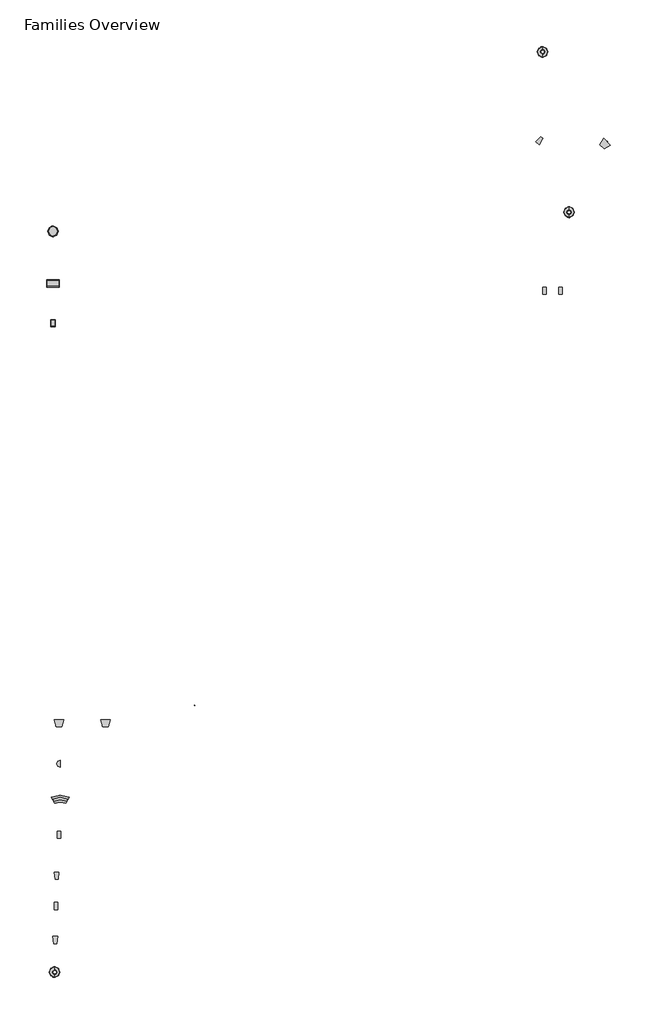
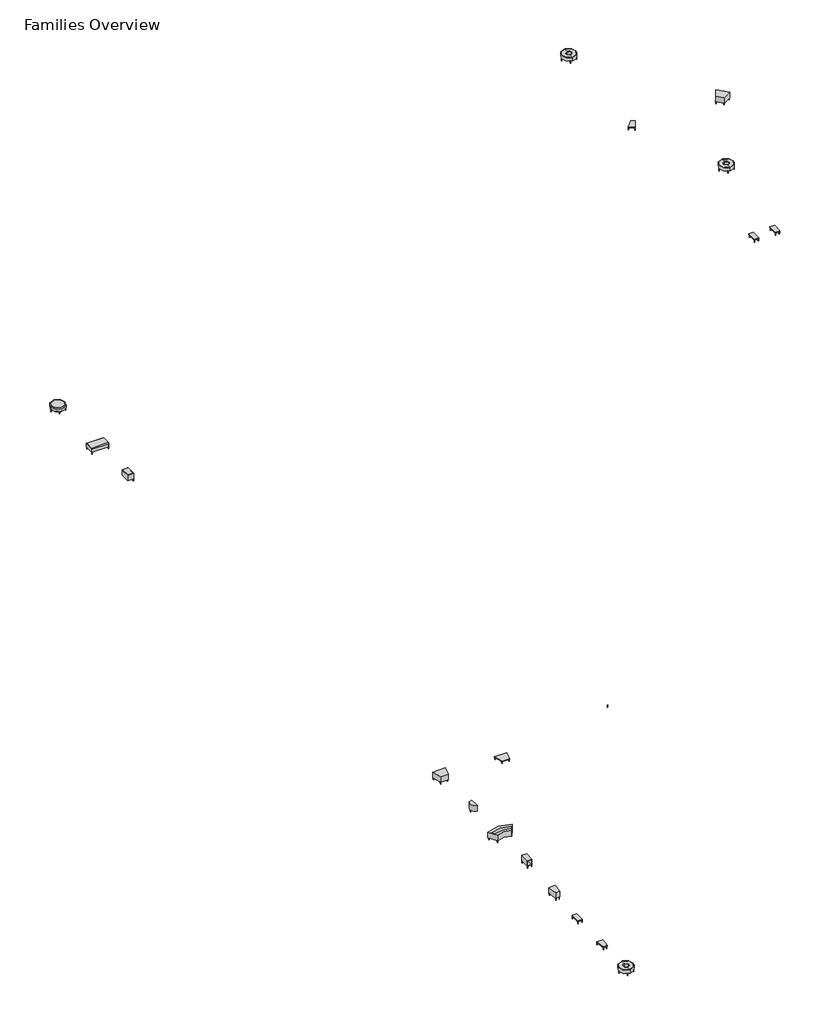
# One storey, incomplete: 19 furniture elements.
"""IFC4 building model written with IfcOpenShell, lengths in millimetres."""

from ifc_helpers import new_model, si_unit, origin, place, context, project, spatial, transform, mapped, element, save
from components import one_leg_table_213f602b, steelcase_coalesse_circa_seating_round_ottoman_ottoman_008e5c35, steelcase_coalesse_circa_seating_straight_bench_58bbb06b, steelcase_coalesse_circa_seating_straight_armrest_end_of_run_a4ea1394, steelcase_coalesse_circa_table_30deg_high_dc8d9c8f, steelcase_coalesse_circa_table_30deg_low_8c004b64, steelcase_coalesse_circa_table_30deg_with_one_leg_30deg_with_30ad734f, steelcase_coalesse_circa_table_60deg_planter_60deg_table_712379bf, steelcase_coalesse_circa_table_high_straight_high_straight_e4ba7b22, steelcase_coalesse_circa_table_high_wedge_high_wedge_dc0570ff, steelcase_coalesse_circa_table_low_straight_low_straight_40700df2, steelcase_coalesse_circa_table_low_straight_low_straight_29d6d99f, steelcase_coalesse_circa_table_low_wedge_low_wedge_ee67b399, steelcase_coalesse_circa_table_round_freestanding_a4bb9338

model = new_model("IFC4")

# Units and contexts
model_context = context("Model", 3, world=origin())
ifc_project = project(units=[si_unit("LENGTHUNIT", "METRE", prefix="MILLI")], contexts=[model_context])

# Site, building, storey
site = spatial("IfcSite", under=ifc_project)
building = spatial("IfcBuilding", under=site)
storey = spatial("IfcBuildingStorey", under=building, Name="Families Overview", Elevation=0.0)

# Furniture
placement = place(None, origin())
one_leg_table_shape = one_leg_table_213f602b(model_context)
element("IfcFurniture", 1, ObjectType="One Leg Table : Cylindrical Leg", at=placement, inside=storey, context=model_context, shape_type="MappedRepresentation", body=[
    mapped(one_leg_table_shape, transform((151189.0107903, -104084.0942945, 0.0), x_axis=(1.0, 0.0, 0.0), y_axis=(0.0, 1.0, 0.0), z_axis=(0.0, 0.0, 1.0))),
])
steelcase_coalesse_circa_seating_round_ottoman_ottoman_shape = steelcase_coalesse_circa_seating_round_ottoman_ottoman_008e5c35(model_context)
element("IfcFurniture", 2, ObjectType="Steelcase Coalesse - Circa - Seating - Round Ottoman : Ottoman", at=placement, inside=storey, context=model_context, shape_type="MappedRepresentation", body=[
    mapped(steelcase_coalesse_circa_seating_round_ottoman_ottoman_shape, transform((137676.5537123, -57715.6851805, 0.0), x_axis=(1.0, 0.0, 0.0), y_axis=(0.0, 1.0, 0.0), z_axis=(0.0, 0.0, 1.0))),
])
steelcase_coalesse_circa_seating_straight_bench_shape = steelcase_coalesse_circa_seating_straight_bench_58bbb06b(model_context)
element("IfcFurniture", 3, ObjectType="Steelcase Coalesse - Circa - Seating - Straight : Bench", at=placement, inside=storey, context=model_context, shape_type="MappedRepresentation", body=[
    mapped(steelcase_coalesse_circa_seating_straight_bench_shape, transform((137041.5537123, -63202.0851805, 0.0), x_axis=(1.0, 0.0, 0.0), y_axis=(0.0, 1.0, 0.0), z_axis=(0.0, 0.0, 1.0))),
])
steelcase_coalesse_circa_seating_straight_armrest_end_of_run_shape = steelcase_coalesse_circa_seating_straight_armrest_end_of_run_a4ea1394(model_context)
element("IfcFurniture", 4, ObjectType="Steelcase Coalesse - Circa - Seating - Straight Armrest : End of Run", at=placement, inside=storey, context=model_context, shape_type="MappedRepresentation", body=[
    mapped(steelcase_coalesse_circa_seating_straight_armrest_end_of_run_shape, transform((137440.0162123, -66402.4851805, 0.0), x_axis=(1.0, 0.0, 0.0), y_axis=(0.0, 1.0, 0.0), z_axis=(0.0, 0.0, 1.0))),
])
steelcase_coalesse_circa_table_30deg_high_shape = steelcase_coalesse_circa_table_30deg_high_dc8d9c8f(model_context)
element("IfcFurniture", 5, ObjectType="Steelcase Coalesse - Circa - Table - 30deg : High", at=placement, inside=storey, context=model_context, shape_type="MappedRepresentation", body=[
    mapped(steelcase_coalesse_circa_table_30deg_high_shape, transform((137793.2278736, -105862.0942945, 0.0), x_axis=(1.0, 0.0, 0.0), y_axis=(0.0, 1.0, 0.0), z_axis=(0.0, 0.0, 1.0))),
])
element("IfcFurniture", 6, ObjectType="Steelcase Coalesse - Circa - Table - 30deg : High", at=placement, inside=storey, context=model_context, shape_type="MappedRepresentation", body=[
    mapped(steelcase_coalesse_circa_table_30deg_high_shape, transform((191582.7490995, -48965.349538, 0.0), x_axis=(0.7071048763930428, -0.707108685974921, 0.0), y_axis=(0.707108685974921, 0.7071048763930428, 0.0), z_axis=(0.0, 0.0, 1.0))),
])
steelcase_coalesse_circa_table_30deg_low_shape = steelcase_coalesse_circa_table_30deg_low_8c004b64(model_context)
element("IfcFurniture", 7, ObjectType="Steelcase Coalesse - Circa - Table - 30deg : Low", at=placement, inside=storey, context=model_context, shape_type="MappedRepresentation", body=[
    mapped(steelcase_coalesse_circa_table_30deg_low_shape, transform((142375.6568447, -105862.0942945, 0.0), x_axis=(1.0, 0.0, 0.0), y_axis=(0.0, 1.0, 0.0), z_axis=(0.0, 0.0, 1.0))),
])
steelcase_coalesse_circa_table_30deg_with_one_leg_30deg_with_shape = steelcase_coalesse_circa_table_30deg_with_one_leg_30deg_with_30ad734f(model_context)
element("IfcFurniture", 8, ObjectType="Steelcase Coalesse - Circa - Table - 30deg with One Leg : 30deg with One Leg", at=placement, inside=storey, context=model_context, shape_type="MappedRepresentation", body=[
    mapped(steelcase_coalesse_circa_table_30deg_with_one_leg_30deg_with_shape, transform((137074.9920296, -109844.583095, 0.0), x_axis=(-1.0, 0.0, 0.0), y_axis=(0.0, -1.0, 0.0), z_axis=(0.0, 0.0, 1.0))),
])
steelcase_coalesse_circa_table_60deg_planter_60deg_table_shape = steelcase_coalesse_circa_table_60deg_planter_60deg_table_712379bf(model_context)
element("IfcFurniture", 9, ObjectType="Steelcase Coalesse - Circa - Table - 60deg Planter : 60deg Table Planter", at=placement, inside=storey, context=model_context, shape_type="MappedRepresentation", body=[
    mapped(steelcase_coalesse_circa_table_60deg_planter_60deg_table_shape, transform((138402.8278736, -114091.6942945, 0.0), x_axis=(1.0, 0.0, 0.0), y_axis=(0.0, 1.0, 0.0), z_axis=(0.0, 0.0, 1.0))),
])
steelcase_coalesse_circa_table_high_straight_high_straight_shape = steelcase_coalesse_circa_table_high_straight_high_straight_e4ba7b22(model_context)
element("IfcFurniture", 10, ObjectType="Steelcase Coalesse - Circa - Table - High Straight : High Straight", at=placement, inside=storey, context=model_context, shape_type="MappedRepresentation", body=[
    mapped(steelcase_coalesse_circa_table_high_straight_high_straight_shape, transform((138098.0278736, -116834.8942945, 0.0), x_axis=(1.0, 0.0, 0.0), y_axis=(0.0, 1.0, 0.0), z_axis=(0.0, 0.0, 1.0))),
])
steelcase_coalesse_circa_table_high_wedge_high_wedge_shape = steelcase_coalesse_circa_table_high_wedge_high_wedge_dc0570ff(model_context)
element("IfcFurniture", 11, ObjectType="Steelcase Coalesse - Circa - Table - High Wedge : High Wedge", at=placement, inside=storey, context=model_context, shape_type="MappedRepresentation", body=[
    mapped(steelcase_coalesse_circa_table_high_wedge_high_wedge_shape, transform((137793.2278736, -120848.0942945, 0.0), x_axis=(1.0, 0.0, 0.0), y_axis=(0.0, 1.0, 0.0), z_axis=(0.0, 0.0, 1.0))),
])
steelcase_coalesse_circa_table_low_straight_low_straight_shape = steelcase_coalesse_circa_table_low_straight_low_straight_40700df2(model_context)
element("IfcFurniture", 12, ObjectType="Steelcase Coalesse - Circa - Table - Low Straight : Low Straight", at=placement, inside=storey, context=model_context, shape_type="MappedRepresentation", body=[
    mapped(steelcase_coalesse_circa_table_low_straight_low_straight_shape, transform((185952.0129327, -63198.9101805, 0.0), x_axis=(1.0, 0.0, 0.0), y_axis=(0.0, 1.0, 0.0), z_axis=(0.0, 0.0, 1.0))),
])
element("IfcFurniture", 13, ObjectType="Steelcase Coalesse - Circa - Table - Low Straight : Low Straight", at=placement, inside=storey, context=model_context, shape_type="MappedRepresentation", body=[
    mapped(steelcase_coalesse_circa_table_low_straight_low_straight_shape, transform((187529.8116257, -63198.9101805, 0.0), x_axis=(1.0, 0.0, 0.0), y_axis=(0.0, 1.0, 0.0), z_axis=(0.0, 0.0, 1.0))),
])
steelcase_coalesse_circa_table_low_straight_low_straight_2_shape = steelcase_coalesse_circa_table_low_straight_low_straight_29d6d99f(model_context)
element("IfcFurniture", 14, ObjectType="Steelcase Coalesse - Circa - Table - Low Straight : Low Straight", at=placement, inside=storey, context=model_context, shape_type="MappedRepresentation", body=[
    mapped(steelcase_coalesse_circa_table_low_straight_low_straight_2_shape, transform((137793.2278736, -123845.2942945, 0.0), x_axis=(1.0, 0.0, 0.0), y_axis=(0.0, 1.0, 0.0), z_axis=(0.0, 0.0, 1.0))),
])
steelcase_coalesse_circa_table_low_wedge_low_wedge_shape = steelcase_coalesse_circa_table_low_wedge_low_wedge_ee67b399(model_context)
element("IfcFurniture", 15, ObjectType="Steelcase Coalesse - Circa - Table - Low Wedge : Low Wedge", at=placement, inside=storey, context=model_context, shape_type="MappedRepresentation", body=[
    mapped(steelcase_coalesse_circa_table_low_wedge_low_wedge_shape, transform((137666.5960681, -127198.0942945, 0.0), x_axis=(1.0, 0.0, 0.0), y_axis=(0.0, 1.0, 0.0), z_axis=(0.0, 0.0, 1.0))),
])
element("IfcFurniture", 16, ObjectType="Steelcase Coalesse - Circa - Table - Low Wedge : Low Wedge", at=placement, inside=storey, context=model_context, shape_type="MappedRepresentation", body=[
    mapped(steelcase_coalesse_circa_table_low_wedge_low_wedge_shape, transform((184540.4444691, -48376.597364, 0.0), x_axis=(-0.7934617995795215, 0.6086200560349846, 0.0), y_axis=(-0.6086200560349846, -0.7934617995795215, 0.0), z_axis=(0.0, 0.0, 1.0))),
])
steelcase_coalesse_circa_table_round_freestanding_shape = steelcase_coalesse_circa_table_round_freestanding_a4bb9338(model_context)
element("IfcFurniture", 17, ObjectType="Steelcase Coalesse - Circa - Table - Round : Freestanding", at=placement, inside=storey, context=model_context, shape_type="MappedRepresentation", body=[
    mapped(steelcase_coalesse_circa_table_round_freestanding_shape, transform((137833.0082885, -130703.2942945, 0.0), x_axis=(1.0, 0.0, 0.0), y_axis=(0.0, 1.0, 0.0), z_axis=(0.0, 0.0, 1.0))),
])
element("IfcFurniture", 18, ObjectType="Steelcase Coalesse - Circa - Table - Round : Freestanding", at=placement, inside=storey, context=model_context, shape_type="MappedRepresentation", body=[
    mapped(steelcase_coalesse_circa_table_round_freestanding_shape, transform((188526.1916162, -55823.971849, 0.0), x_axis=(1.0, 0.0, 0.0), y_axis=(0.0, 1.0, 0.0), z_axis=(0.0, 0.0, 1.0))),
])
element("IfcFurniture", 19, ObjectType="Steelcase Coalesse - Circa - Table - Round : Freestanding", at=placement, inside=storey, context=model_context, shape_type="MappedRepresentation", body=[
    mapped(steelcase_coalesse_circa_table_round_freestanding_shape, transform((185918.2916821, -40036.3830209, 0.0), x_axis=(1.0, 0.0, 0.0), y_axis=(0.0, 1.0, 0.0), z_axis=(0.0, 0.0, 1.0))),
])

save(model, "model.ifc")
